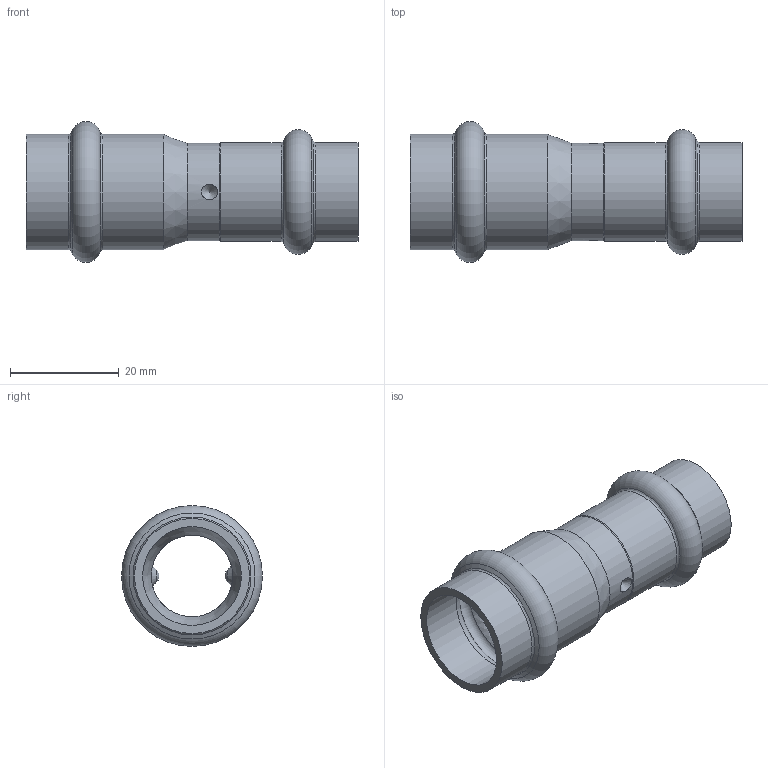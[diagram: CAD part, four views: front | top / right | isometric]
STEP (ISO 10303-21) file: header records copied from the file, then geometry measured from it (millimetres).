
FILE_DESCRIPTION((''),'2;1');
FILE_NAME('G:\Technics\CAD\Bauteile\018\692401815(0).stp','2008-02-14T13:53:26',('herberg'),(''),'Autodesk Inventor 2008','Autodesk Inventor 2008','');
FILE_SCHEMA(('AUTOMOTIVE_DESIGN { 1 0 10303 214 1 1 1 1 }'));
Length unit declared in the file: millimetre
Products named in the file (1): 692401815(0)
Bounding box: 61 x 25.89 x 25.89 mm (x, y, z)
Volume: 5765.4 mm3; surface area: 7857.3 mm2
Topology: 1 solids, 1 shells, 38 faces, 89 edges, 52 vertices
Faces by surface type: cone 12, cylinder 10, bspline 8, torus 4, sphere 2, plane 2
Full cylindrical faces by diameter (mm): 15 x1, 15.15 x2, 18 x1, 18.15 x4, 21.15 x2
Entity records: 1364 total; most frequent: CARTESIAN_POINT 707, DIRECTION 132, ORIENTED_EDGE 86, EDGE_LOOP 74, AXIS2_PLACEMENT_3D 66, EDGE_CURVE 43, VERTEX_POINT 41, FACE_OUTER_BOUND 38
